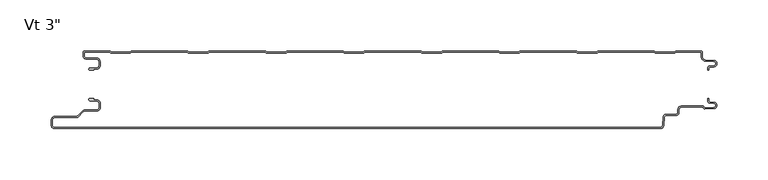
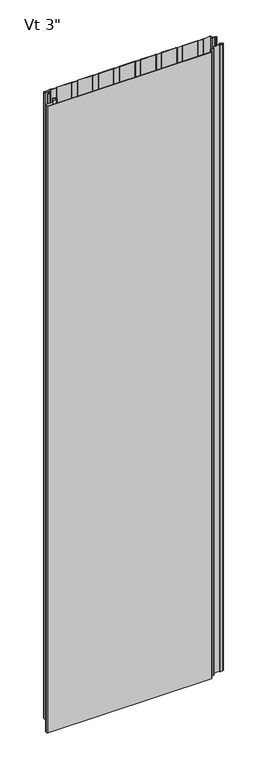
"""IFC4 building model written with IfcOpenShell, lengths in millimetres: plate geometry."""

from ifc_helpers import new_model, si_unit, point, frame, frame_2d, origin, origin_with_axes, place, context, project, spatial, polyline, circle_curve, trimmed, segment, composite_curve, outline, extrude, source, transform, mapped, element, save
from ifc_brep_helpers import plane_surface, cylinder_surface, revolved_surface, advanced_brep


def plate_f468f77b(model_context):
    return source(origin(), model_context, "Body", "SolidModel", [
        advanced_brep(
        [(-302.7686912, -17.0015159, 2400.0), (-303.7686884, -18.0015191, 2400.0), (-302.7686912, -19.0015104, 2400.0), (-298.7684875, -19.0015105, 2400.0), (-298.7684875, -18.0015159, 2400.0), (-296.0762777, -18.0015159, 2400.0), (-292.776282, -14.7015202, 2400.0), (-292.776282, -10.301529, 2400.0), (-296.0762775, -7.0015335, 2400.0), (-306.4962564, -7.0015335, 2400.0), (-308.2662506, -5.2315393, 2400.0), (-308.2662506, -0.9999916, 2400.0), (-283.765974, -0.9999916, 2400.0), (-282.3803314, -2.2002307, 2400.0), (-263.0051651, -2.2002307, 2400.0), (-261.6195321, -1.0, 2400.0), (-207.5661167, -1.0, 2400.0), (-206.1804838, -2.2002307, 2400.0), (-186.8053175, -2.2002307, 2400.0), (-185.4196845, -1.0, 2400.0), (-131.3662691, -1.0, 2400.0), (-129.9806362, -2.2002307, 2400.0), (-110.6054699, -2.2002307, 2400.0), (-109.2198369, -1.0, 2400.0), (-55.1664215, -1.0, 2400.0), (-53.7807886, -2.2002307, 2400.0), (-34.4056223, -2.2002307, 2400.0), (-33.0199893, -1.0, 2400.0), (21.0334261, -1.0, 2400.0), (22.419059, -2.2002307, 2400.0), (41.7942253, -2.2002307, 2400.0), (43.1798583, -1.0, 2400.0), (97.2332737, -1.0, 2400.0), (98.6189066, -2.2002307, 2400.0), (117.9940729, -2.2002307, 2400.0), (119.3797059, -1.0, 2400.0), (173.4331213, -1.0, 2400.0), (174.8187542, -2.2002307, 2400.0), (194.1939205, -2.2002307, 2400.0), (195.5795535, -1.0, 2400.0), (249.6329689, -1.0, 2400.0), (251.0186018, -2.2002307, 2400.0), (270.3937681, -2.2002307, 2400.0), (271.7794011, -1.0, 2400.0), (296.2787013, -1.0, 2400.0), (296.2787013, -6.0026007, 2400.0), (300.1016499, -9.9974365, 2400.0), (308.5931719, -10.4046442, 2400.0), (308.5921924, -14.7059822, 2400.0), (304.4513685, -14.9256429, 2400.0), (302.7686884, -16.6743462, 2400.0), (302.7686884, -19.0015288, 2400.0), (303.7686884, -19.0015288, 2400.0), (303.7686884, -16.6743462, 2400.0), (304.4955779, -15.9247038, 2400.0), (308.6451655, -15.7045782, 2400.0), (308.6435732, -9.405912, 2400.0), (300.1495495, -8.9985844, 2400.0), (297.2787013, -6.0004836, 2400.0), (297.2787013, -1.4015652, 2400.0), (295.878797, -0.001568, 2400.0), (271.9275849, 2.09e-05, 2400.0), (271.0119353, -0.3417885, 2400.0), (270.0208877, -1.2002307, 2400.0), (251.3914823, -1.2002307, 2400.0), (250.4004346, -0.3417885, 2400.0), (249.4838177, 0.0, 2400.0), (195.7287046, 0.0, 2400.0), (194.8120877, -0.3417885, 2400.0), (193.8210401, -1.2002307, 2400.0), (175.1916347, -1.2002307, 2400.0), (174.200587, -0.3417885, 2400.0), (173.2839701, 0.0, 2400.0), (119.528857, 0.0, 2400.0), (118.6122401, -0.3417885, 2400.0), (117.6211925, -1.2002307, 2400.0), (98.9917871, -1.2002307, 2400.0), (98.0007394, -0.3417885, 2400.0), (97.0841225, 0.0, 2400.0), (43.3290094, 0.0, 2400.0), (42.4123925, -0.3417885, 2400.0), (41.4213449, -1.2002307, 2400.0), (22.7919395, -1.2002307, 2400.0), (21.8008918, -0.3417885, 2400.0), (20.8842749, 0.0, 2400.0), (-32.8708382, 0.0, 2400.0), (-33.7874551, -0.3417885, 2400.0), (-34.7785027, -1.2002307, 2400.0), (-53.4079081, -1.2002307, 2400.0), (-54.3989558, -0.3417885, 2400.0), (-55.3155727, 0.0, 2400.0), (-109.0706858, 0.0, 2400.0), (-109.9873027, -0.3417885, 2400.0), (-110.9783503, -1.2002307, 2400.0), (-129.6077557, -1.2002307, 2400.0), (-130.5988034, -0.3417885, 2400.0), (-131.5154203, 0.0, 2400.0), (-185.2705334, 0.0, 2400.0), (-186.1871503, -0.3417885, 2400.0), (-187.1781979, -1.2002307, 2400.0), (-205.8076033, -1.2002307, 2400.0), (-206.798651, -0.3417885, 2400.0), (-207.7152679, 0.0, 2400.0), (-261.470381, 0.0, 2400.0), (-262.3869979, -0.3417885, 2400.0), (-263.3780455, -1.2002307, 2400.0), (-282.0074509, -1.2002307, 2400.0), (-282.9984986, -0.3417885, 2400.0), (-283.9152069, 0.0, 2400.0), (-307.8662545, 8.4e-06, 2400.0), (-309.2662506, -1.3999878, 2400.0), (-309.2662506, -5.2315393, 2400.0), (-306.4962564, -8.0015335, 2400.0), (-296.0762775, -8.0015335, 2400.0), (-293.776282, -10.301529, 2400.0), (-293.776282, -14.7015202, 2400.0), (-296.0762777, -17.0015159, 2400.0), (-302.7686912, -17.0015159, 0.0), (-296.0762777, -17.0015159, 0.0), (-293.776282, -14.7015202, 0.0), (-293.776282, -10.301529, 0.0), (-296.0762775, -8.0015335, 0.0), (-306.4962564, -8.0015335, 0.0), (-309.2662506, -5.2315393, 0.0), (-309.2662506, -1.3999878, 0.0), (-307.8662545, 8.4e-06, 0.0), (-283.9151155, 8.4e-06, 0.0), (-282.9984986, -0.3417885, 0.0), (-282.0074509, -1.2002307, 0.0), (-263.3780455, -1.2002307, 0.0), (-262.3869979, -0.3417885, 0.0), (-261.470381, 0.0, 0.0), (-207.7152679, 0.0, 0.0), (-206.798651, -0.3417885, 0.0), (-205.8076033, -1.2002307, 0.0), (-187.1781979, -1.2002307, 0.0), (-186.1871503, -0.3417885, 0.0), (-185.2705334, 0.0, 0.0), (-131.5154203, 0.0, 0.0), (-130.5988034, -0.3417885, 0.0), (-129.6077557, -1.2002307, 0.0), (-110.9783503, -1.2002307, 0.0), (-109.9873027, -0.3417885, 0.0), (-109.0706858, 0.0, 0.0), (-55.3155727, 0.0, 0.0), (-54.3989558, -0.3417885, 0.0), (-53.4079081, -1.2002307, 0.0), (-34.7785027, -1.2002307, 0.0), (-33.7874551, -0.3417885, 0.0), (-32.8708382, 0.0, 0.0), (20.8842749, 0.0, 0.0), (21.8008918, -0.3417885, 0.0), (22.7919395, -1.2002307, 0.0), (41.4213449, -1.2002307, 0.0), (42.4123925, -0.3417885, 0.0), (43.3290094, 0.0, 0.0), (97.0841225, 0.0, 0.0), (98.0007394, -0.3417885, 0.0), (98.9917871, -1.2002307, 0.0), (117.6211925, -1.2002307, 0.0), (118.6122401, -0.3417885, 0.0), (119.528857, 0.0, 0.0), (173.2839701, 0.0, 0.0), (174.200587, -0.3417885, 0.0), (175.1916347, -1.2002307, 0.0), (193.8210401, -1.2002307, 0.0), (194.8120877, -0.3417885, 0.0), (195.7287046, 0.0, 0.0), (249.4838177, 0.0, 0.0), (250.4004346, -0.3417885, 0.0), (251.3914823, -1.2002307, 0.0), (270.0208877, -1.2002307, 0.0), (271.0119353, -0.3417885, 0.0), (271.9285522, 0.0, 0.0), (295.878797, 2.09e-05, 0.0), (297.2787013, -1.4015652, 0.0), (297.2787013, -6.0004836, 0.0), (300.1495495, -8.9985844, 0.0), (308.6435732, -9.405912, 0.0), (308.6451655, -15.7045782, 0.0), (304.4955779, -15.9247038, 0.0), (303.7686884, -16.6743462, 0.0), (303.7686884, -19.0015288, 0.0), (302.7686884, -19.0015288, 0.0), (302.7686884, -16.6743462, 0.0), (304.4513685, -14.9256429, 0.0), (308.5921924, -14.7059822, 0.0), (308.5931719, -10.4046442, 0.0), (300.1016499, -9.9974365, 0.0), (296.2787013, -6.0026007, 0.0), (296.2787013, -1.0, 0.0), (271.7794011, -1.0, 0.0), (270.3937681, -2.2002307, 0.0), (251.0186018, -2.2002307, 0.0), (249.6329689, -1.0, 0.0), (195.5795535, -1.0, 0.0), (194.1939205, -2.2002307, 0.0), (174.8187542, -2.2002307, 0.0), (173.4331213, -1.0, 0.0), (119.3797059, -1.0, 0.0), (117.9940729, -2.2002307, 0.0), (98.6189066, -2.2002307, 0.0), (97.2332737, -1.0, 0.0), (43.1798583, -1.0, 0.0), (41.7942253, -2.2002307, 0.0), (22.419059, -2.2002307, 0.0), (21.0334261, -1.0, 0.0), (-33.0199893, -1.0, 0.0), (-34.4056223, -2.2002307, 0.0), (-53.7807886, -2.2002307, 0.0), (-55.1664215, -1.0, 0.0), (-109.2198369, -1.0, 0.0), (-110.6054699, -2.2002307, 0.0), (-129.9806362, -2.2002307, 0.0), (-131.3662691, -1.0, 0.0), (-185.4196845, -1.0, 0.0), (-186.8053175, -2.2002307, 0.0), (-206.1804838, -2.2002307, 0.0), (-207.5661167, -1.0, 0.0), (-261.6195321, -1.0, 0.0), (-263.0051651, -2.2002307, 0.0), (-282.3803314, -2.2002307, 0.0), (-283.765974, -0.9999916, 0.0), (-308.2662506, -0.9999916, 0.0), (-308.2662506, -5.2315393, 0.0), (-306.4962564, -7.0015335, 0.0), (-296.0762775, -7.0015335, 0.0), (-292.776282, -10.301529, 0.0), (-292.776282, -14.7015202, 0.0), (-296.0762777, -18.0015159, 0.0), (-298.7684875, -18.0015159, 0.0), (-298.7684875, -19.0015105, 0.0), (-302.7686912, -19.0015105, 0.0), (-303.7686884, -18.0015191, 0.0)],
        [
            (0, 1, circle_curve(frame((-302.7686912, -18.0015132, 2400.0), z_axis=(0.0, 0.0, 1.0), x_axis=(1.0, 0.0, 0.0)), 0.9999973)),
            (1, 2, circle_curve(frame((-302.7686912, -18.0015132, 2400.0), z_axis=(0.0, 0.0, 1.0), x_axis=(1.0, 0.0, 0.0)), 0.9999972)),
            (2, 3),
            (3, 4),
            (4, 5),
            (5, 6, circle_curve(frame((-296.0762777, -14.7015202, 2400.0), z_axis=(0.0, 0.0, 1.0), x_axis=(1.0, 0.0, 0.0)), 3.2999957)),
            (6, 7),
            (7, 8, circle_curve(frame((-296.0762775, -10.301529, 2400.0), z_axis=(0.0, 0.0, 1.0), x_axis=(1.0, 0.0, 0.0)), 3.2999955)),
            (8, 9),
            (9, 10, circle_curve(frame((-306.4962564, -5.2315393, 2400.0), z_axis=(0.0, 0.0, -1.0), x_axis=(1.0, 0.0, 0.0)), 1.7699942)),
            (10, 11),
            (11, 12),
            (12, 13),
            (13, 14),
            (14, 15),
            (15, 16),
            (16, 17),
            (17, 18),
            (18, 19),
            (19, 20),
            (20, 21),
            (21, 22),
            (22, 23),
            (23, 24),
            (24, 25),
            (25, 26),
            (26, 27),
            (27, 28),
            (28, 29),
            (29, 30),
            (30, 31),
            (31, 32),
            (32, 33),
            (33, 34),
            (34, 35),
            (35, 36),
            (36, 37),
            (37, 38),
            (38, 39),
            (39, 40),
            (40, 41),
            (41, 42),
            (42, 43),
            (43, 44),
            (44, 45),
            (45, 46, circle_curve(frame((300.2939817, -5.9867338, 2400.0), z_axis=(0.0, 0.0, 1.0), x_axis=(1.0, 0.0, 0.0)), 4.0153117)),
            (46, 47),
            (47, 48, circle_curve(frame((308.4781032, -12.5552871, 2400.0), z_axis=(0.0, 0.0, -1.0), x_axis=(1.0, 0.0, 0.0)), 2.153719)),
            (48, 49),
            (49, 50, circle_curve(frame((304.5186869, -16.6743462, 2400.0), z_axis=(0.0, 0.0, 1.0), x_axis=(1.0, 0.0, 0.0)), 1.7499985)),
            (50, 51),
            (51, 52),
            (52, 53),
            (53, 54, circle_curve(frame((304.5186869, -16.6743462, 2400.0), z_axis=(0.0, 0.0, -1.0), x_axis=(1.0, 0.0, 0.0)), 0.7499985)),
            (54, 55),
            (55, 56, circle_curve(frame((308.4781032, -12.5552871, 2400.0), z_axis=(0.0, 0.0, 1.0), x_axis=(1.0, 0.0, 0.0)), 3.153719)),
            (56, 57),
            (57, 58, circle_curve(frame((300.2939817, -5.9867338, 2400.0), z_axis=(0.0, 0.0, -1.0), x_axis=(1.0, 0.0, 0.0)), 3.0153117)),
            (58, 59),
            (59, 60, circle_curve(frame((295.8787041, -1.4015652, 2400.0), z_axis=(0.0, 0.0, 1.0), x_axis=(1.0, 0.0, 0.0)), 1.3999972)),
            (60, 61),
            (61, 62, circle_curve(frame((271.9285522, -1.3999972, 2400.0), z_axis=(0.0, 0.0, 1.0), x_axis=(1.0, 0.0, 0.0)), 1.3999972)),
            (62, 63),
            (63, 64),
            (64, 65),
            (65, 66, circle_curve(frame((249.4838177, -1.3999972, 2400.0), z_axis=(0.0, 0.0, 1.0), x_axis=(1.0, 0.0, 0.0)), 1.3999972)),
            (66, 67),
            (67, 68, circle_curve(frame((195.7287046, -1.3999972, 2400.0), z_axis=(0.0, 0.0, 1.0), x_axis=(1.0, 0.0, 0.0)), 1.3999972)),
            (68, 69),
            (69, 70),
            (70, 71),
            (71, 72, circle_curve(frame((173.2839701, -1.3999972, 2400.0), z_axis=(0.0, 0.0, 1.0), x_axis=(1.0, 0.0, 0.0)), 1.3999972)),
            (72, 73),
            (73, 74, circle_curve(frame((119.528857, -1.3999972, 2400.0), z_axis=(0.0, 0.0, 1.0), x_axis=(1.0, 0.0, 0.0)), 1.3999972)),
            (74, 75),
            (75, 76),
            (76, 77),
            (77, 78, circle_curve(frame((97.0841225, -1.3999972, 2400.0), z_axis=(0.0, 0.0, 1.0), x_axis=(1.0, 0.0, 0.0)), 1.3999972)),
            (78, 79),
            (79, 80, circle_curve(frame((43.3290094, -1.3999972, 2400.0), z_axis=(0.0, 0.0, 1.0), x_axis=(1.0, 0.0, 0.0)), 1.3999972)),
            (80, 81),
            (81, 82),
            (82, 83),
            (83, 84, circle_curve(frame((20.8842749, -1.3999972, 2400.0), z_axis=(0.0, 0.0, 1.0), x_axis=(1.0, 0.0, 0.0)), 1.3999972)),
            (84, 85),
            (85, 86, circle_curve(frame((-32.8708382, -1.3999972, 2400.0), z_axis=(0.0, 0.0, 1.0), x_axis=(1.0, 0.0, 0.0)), 1.3999972)),
            (86, 87),
            (87, 88),
            (88, 89),
            (89, 90, circle_curve(frame((-55.3155727, -1.3999972, 2400.0), z_axis=(0.0, 0.0, 1.0), x_axis=(1.0, 0.0, 0.0)), 1.3999972)),
            (90, 91),
            (91, 92, circle_curve(frame((-109.0706858, -1.3999972, 2400.0), z_axis=(0.0, 0.0, 1.0), x_axis=(1.0, 0.0, 0.0)), 1.3999972)),
            (92, 93),
            (93, 94),
            (94, 95),
            (95, 96, circle_curve(frame((-131.5154203, -1.3999972, 2400.0), z_axis=(0.0, 0.0, 1.0), x_axis=(1.0, 0.0, 0.0)), 1.3999972)),
            (96, 97),
            (97, 98, circle_curve(frame((-185.2705334, -1.3999972, 2400.0), z_axis=(0.0, 0.0, 1.0), x_axis=(1.0, 0.0, 0.0)), 1.3999972)),
            (98, 99),
            (99, 100),
            (100, 101),
            (101, 102, circle_curve(frame((-207.7152679, -1.3999972, 2400.0), z_axis=(0.0, 0.0, 1.0), x_axis=(1.0, 0.0, 0.0)), 1.3999972)),
            (102, 103),
            (103, 104, circle_curve(frame((-261.470381, -1.3999972, 2400.0), z_axis=(0.0, 0.0, 1.0), x_axis=(1.0, 0.0, 0.0)), 1.3999972)),
            (104, 105),
            (105, 106),
            (106, 107),
            (107, 108, circle_curve(frame((-283.9151155, -1.3999972, 2400.0), z_axis=(0.0, 0.0, 1.0), x_axis=(1.0, 0.0, 0.0)), 1.3999972)),
            (108, 109),
            (109, 110, circle_curve(frame((-307.8662545, -1.3999878, 2400.0), z_axis=(0.0, 0.0, 1.0), x_axis=(1.0, 0.0, 0.0)), 1.3999962)),
            (110, 111),
            (111, 112, circle_curve(frame((-306.4962564, -5.2315393, 2400.0), z_axis=(0.0, 0.0, 1.0), x_axis=(1.0, 0.0, 0.0)), 2.7699942)),
            (112, 113),
            (113, 114, circle_curve(frame((-296.0762775, -10.301529, 2400.0), z_axis=(0.0, 0.0, -1.0), x_axis=(1.0, 0.0, 0.0)), 2.2999955)),
            (114, 115),
            (115, 116, circle_curve(frame((-296.0762777, -14.7015202, 2400.0), z_axis=(0.0, 0.0, -1.0), x_axis=(1.0, 0.0, 0.0)), 2.2999957)),
            (116, 0),
            (117, 118),
            (118, 119, circle_curve(frame((-296.0762777, -14.7015202, 0.0), z_axis=(0.0, 0.0, 1.0), x_axis=(1.0, 0.0, 0.0)), 2.2999957)),
            (119, 120),
            (120, 121, circle_curve(frame((-296.0762775, -10.301529, 0.0), z_axis=(0.0, 0.0, 1.0), x_axis=(1.0, 0.0, 0.0)), 2.2999955)),
            (121, 122),
            (122, 123, circle_curve(frame((-306.4962564, -5.2315393, 0.0), z_axis=(0.0, 0.0, -1.0), x_axis=(1.0, 0.0, 0.0)), 2.7699942)),
            (123, 124),
            (124, 125, circle_curve(frame((-307.8662545, -1.3999878, 0.0), z_axis=(0.0, 0.0, -1.0), x_axis=(1.0, 0.0, 0.0)), 1.3999962)),
            (125, 126),
            (126, 127, circle_curve(frame((-283.9151155, -1.3999972, 0.0), z_axis=(0.0, 0.0, -1.0), x_axis=(1.0, 0.0, 0.0)), 1.3999972)),
            (127, 128),
            (128, 129),
            (129, 130),
            (130, 131, circle_curve(frame((-261.470381, -1.3999972, 0.0), z_axis=(0.0, 0.0, -1.0), x_axis=(1.0, 0.0, 0.0)), 1.3999972)),
            (131, 132),
            (132, 133, circle_curve(frame((-207.7152679, -1.3999972, 0.0), z_axis=(0.0, 0.0, -1.0), x_axis=(1.0, 0.0, 0.0)), 1.3999972)),
            (133, 134),
            (134, 135),
            (135, 136),
            (136, 137, circle_curve(frame((-185.2705334, -1.3999972, 0.0), z_axis=(0.0, 0.0, -1.0), x_axis=(1.0, 0.0, 0.0)), 1.3999972)),
            (137, 138),
            (138, 139, circle_curve(frame((-131.5154203, -1.3999972, 0.0), z_axis=(0.0, 0.0, -1.0), x_axis=(1.0, 0.0, 0.0)), 1.3999972)),
            (139, 140),
            (140, 141),
            (141, 142),
            (142, 143, circle_curve(frame((-109.0706858, -1.3999972, 0.0), z_axis=(0.0, 0.0, -1.0), x_axis=(1.0, 0.0, 0.0)), 1.3999972)),
            (143, 144),
            (144, 145, circle_curve(frame((-55.3155727, -1.3999972, 0.0), z_axis=(0.0, 0.0, -1.0), x_axis=(1.0, 0.0, 0.0)), 1.3999972)),
            (145, 146),
            (146, 147),
            (147, 148),
            (148, 149, circle_curve(frame((-32.8708382, -1.3999972, 0.0), z_axis=(0.0, 0.0, -1.0), x_axis=(1.0, 0.0, 0.0)), 1.3999972)),
            (149, 150),
            (150, 151, circle_curve(frame((20.8842749, -1.3999972, 0.0), z_axis=(0.0, 0.0, -1.0), x_axis=(1.0, 0.0, 0.0)), 1.3999972)),
            (151, 152),
            (152, 153),
            (153, 154),
            (154, 155, circle_curve(frame((43.3290094, -1.3999972, 0.0), z_axis=(0.0, 0.0, -1.0), x_axis=(1.0, 0.0, 0.0)), 1.3999972)),
            (155, 156),
            (156, 157, circle_curve(frame((97.0841225, -1.3999972, 0.0), z_axis=(0.0, 0.0, -1.0), x_axis=(1.0, 0.0, 0.0)), 1.3999972)),
            (157, 158),
            (158, 159),
            (159, 160),
            (160, 161, circle_curve(frame((119.528857, -1.3999972, 0.0), z_axis=(0.0, 0.0, -1.0), x_axis=(1.0, 0.0, 0.0)), 1.3999972)),
            (161, 162),
            (162, 163, circle_curve(frame((173.2839701, -1.3999972, 0.0), z_axis=(0.0, 0.0, -1.0), x_axis=(1.0, 0.0, 0.0)), 1.3999972)),
            (163, 164),
            (164, 165),
            (165, 166),
            (166, 167, circle_curve(frame((195.7287046, -1.3999972, 0.0), z_axis=(0.0, 0.0, -1.0), x_axis=(1.0, 0.0, 0.0)), 1.3999972)),
            (167, 168),
            (168, 169, circle_curve(frame((249.4838177, -1.3999972, 0.0), z_axis=(0.0, 0.0, -1.0), x_axis=(1.0, 0.0, 0.0)), 1.3999972)),
            (169, 170),
            (170, 171),
            (171, 172),
            (172, 173, circle_curve(frame((271.9285522, -1.3999972, 0.0), z_axis=(0.0, 0.0, -1.0), x_axis=(1.0, 0.0, 0.0)), 1.3999972)),
            (173, 174),
            (174, 175, circle_curve(frame((295.8787041, -1.4015652, 0.0), z_axis=(0.0, 0.0, -1.0), x_axis=(1.0, 0.0, 0.0)), 1.3999972)),
            (175, 176),
            (176, 177, circle_curve(frame((300.2939817, -5.9867338, 0.0), z_axis=(0.0, 0.0, 1.0), x_axis=(1.0, 0.0, 0.0)), 3.0153117)),
            (177, 178),
            (178, 179, circle_curve(frame((308.4781032, -12.5552871, 0.0), z_axis=(0.0, 0.0, -1.0), x_axis=(1.0, 0.0, 0.0)), 3.153719)),
            (179, 180),
            (180, 181, circle_curve(frame((304.5186869, -16.6743462, 0.0), z_axis=(0.0, 0.0, 1.0), x_axis=(1.0, 0.0, 0.0)), 0.7499985)),
            (181, 182),
            (182, 183),
            (183, 184),
            (184, 185, circle_curve(frame((304.5186869, -16.6743462, 0.0), z_axis=(0.0, 0.0, -1.0), x_axis=(1.0, 0.0, 0.0)), 1.7499985)),
            (185, 186),
            (186, 187, circle_curve(frame((308.4781032, -12.5552871, 0.0), z_axis=(0.0, 0.0, 1.0), x_axis=(1.0, 0.0, 0.0)), 2.153719)),
            (187, 188),
            (188, 189, circle_curve(frame((300.2939817, -5.9867338, 0.0), z_axis=(0.0, 0.0, -1.0), x_axis=(1.0, 0.0, 0.0)), 4.0153117)),
            (189, 190),
            (190, 191),
            (191, 192),
            (192, 193),
            (193, 194),
            (194, 195),
            (195, 196),
            (196, 197),
            (197, 198),
            (198, 199),
            (199, 200),
            (200, 201),
            (201, 202),
            (202, 203),
            (203, 204),
            (204, 205),
            (205, 206),
            (206, 207),
            (207, 208),
            (208, 209),
            (209, 210),
            (210, 211),
            (211, 212),
            (212, 213),
            (213, 214),
            (214, 215),
            (215, 216),
            (216, 217),
            (217, 218),
            (218, 219),
            (219, 220),
            (220, 221),
            (221, 222),
            (222, 223),
            (223, 224),
            (224, 225, circle_curve(frame((-306.4962564, -5.2315393, 0.0), z_axis=(0.0, 0.0, 1.0), x_axis=(1.0, 0.0, 0.0)), 1.7699942)),
            (225, 226),
            (226, 227, circle_curve(frame((-296.0762775, -10.301529, 0.0), z_axis=(0.0, 0.0, -1.0), x_axis=(1.0, 0.0, 0.0)), 3.2999955)),
            (227, 228),
            (228, 229, circle_curve(frame((-296.0762777, -14.7015202, 0.0), z_axis=(0.0, 0.0, -1.0), x_axis=(1.0, 0.0, 0.0)), 3.2999957)),
            (229, 230),
            (230, 231),
            (231, 232),
            (232, 233, circle_curve(frame((-302.7686912, -18.0015132, 0.0), z_axis=(0.0, 0.0, -1.0), x_axis=(1.0, 0.0, 0.0)), 0.9999972)),
            (233, 117, circle_curve(frame((-302.7686912, -18.0015132, 0.0), z_axis=(0.0, 0.0, -1.0), x_axis=(1.0, 0.0, 0.0)), 0.9999973)),
            (116, 118),
            (117, 0),
            (115, 119),
            (114, 120),
            (113, 121),
            (112, 122),
            (111, 123),
            (110, 124),
            (109, 125),
            (108, 126),
            (90, 144),
            (143, 91),
            (107, 127),
            (106, 128),
            (105, 129),
            (103, 131),
            (130, 104),
            (101, 133),
            (132, 102),
            (86, 148),
            (147, 87),
            (142, 92),
            (141, 93),
            (96, 138),
            (137, 97),
            (89, 145),
            (88, 146),
            (85, 149),
            (136, 98),
            (99, 135),
            (134, 100),
            (95, 139),
            (94, 140),
            (2, 232),
            (231, 3),
            (1, 233),
            (84, 150),
            (83, 151),
            (82, 152),
            (81, 153),
            (80, 154),
            (79, 155),
            (78, 156),
            (77, 157),
            (76, 158),
            (75, 159),
            (74, 160),
            (73, 161),
            (72, 162),
            (71, 163),
            (70, 164),
            (69, 165),
            (68, 166),
            (67, 167),
            (66, 168),
            (65, 169),
            (64, 170),
            (63, 171),
            (62, 172),
            (61, 173),
            (60, 174),
            (59, 175),
            (58, 176),
            (57, 177),
            (56, 178),
            (55, 179),
            (54, 180),
            (53, 181),
            (52, 182),
            (51, 183),
            (50, 184),
            (49, 185),
            (48, 186),
            (47, 187),
            (46, 188),
            (45, 189),
            (44, 190),
            (43, 191),
            (42, 192),
            (41, 193),
            (40, 194),
            (39, 195),
            (38, 196),
            (37, 197),
            (36, 198),
            (35, 199),
            (34, 200),
            (33, 201),
            (32, 202),
            (31, 203),
            (30, 204),
            (29, 205),
            (28, 206),
            (27, 207),
            (26, 208),
            (25, 209),
            (24, 210),
            (23, 211),
            (22, 212),
            (21, 213),
            (20, 214),
            (19, 215),
            (18, 216),
            (17, 217),
            (16, 218),
            (15, 219),
            (14, 220),
            (13, 221),
            (12, 222),
            (11, 223),
            (10, 224),
            (9, 225),
            (8, 226),
            (7, 227),
            (6, 228),
            (5, 229),
            (4, 230),
        ],
        [
            plane_surface(frame((0.0, 0.0, 2400.0), z_axis=(0.0, 0.0, 1.0), x_axis=(0.0, 1.0, 0.0))),
            plane_surface(frame((0.0, 0.0, 0.0), z_axis=(0.0, 0.0, -1.0), x_axis=(0.0, 1.0, 0.0))),
            plane_surface(frame((-302.7686912, -17.0015159, 2400.0), z_axis=(0.0, 1.0, 0.0), x_axis=(0.0, 0.0, -1.0))),
            revolved_surface(polyline([(-293.776282, -14.7015202, 0.0), (-293.776282, -14.7015202, 2400.0)]), (-296.0762777, -14.7015202, 2400.0), (0.0, 0.0, -1.0)),
            plane_surface(frame((-293.776282, -14.7015202, 2400.0), z_axis=(-1.0, 0.0, 0.0), x_axis=(0.0, 0.0, -1.0))),
            revolved_surface(polyline([(-293.776282, -10.301529, 0.0), (-293.776282, -10.301529, 2400.0)]), (-296.0762775, -10.301529, 2400.0), (0.0, 0.0, -1.0)),
            plane_surface(frame((-296.0762775, -8.0015335, 2400.0), z_axis=(0.0, -1.0, 0.0), x_axis=(0.0, 0.0, -1.0))),
            cylinder_surface(frame((-306.4962564, -5.2315393, 2400.0), z_axis=(0.0, 0.0, 1.0), x_axis=(1.0, 0.0, 0.0)), 2.7699942),
            plane_surface(frame((-309.2662506, -5.2315393, 2400.0), z_axis=(-1.0, 0.0, 0.0), x_axis=(0.0, 0.0, -1.0))),
            cylinder_surface(frame((-307.8662545, -1.3999878, 2400.0), z_axis=(0.0, 0.0, 1.0), x_axis=(1.0, 0.0, 0.0)), 1.3999962),
            plane_surface(frame((-307.8662545, 8.4e-06, 2400.0), z_axis=(0.0, 1.0, 0.0), x_axis=(0.0, 0.0, -1.0))),
            plane_surface(frame((-109.0706858, 0.0, 2400.0), z_axis=(0.0, 1.0, 0.0), x_axis=(0.0, 0.0, -1.0))),
            cylinder_surface(frame((-283.9151155, -1.3999972, 2400.0), z_axis=(0.0, 0.0, 1.0), x_axis=(1.0, 0.0, 0.0)), 1.3999972),
            plane_surface(frame((-282.9984986, -0.3417885, 2400.0), z_axis=(0.6547276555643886, 0.755864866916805, 0.0), x_axis=(0.0, 0.0, -1.0))),
            plane_surface(frame((-272.6927482, -1.2002307, 2400.0), z_axis=(0.0, 1.0, 0.0), x_axis=(0.0, 0.0, -1.0))),
            cylinder_surface(frame((-261.470381, -1.3999972, 2400.0), z_axis=(0.0, 0.0, 1.0), x_axis=(1.0, 0.0, 0.0)), 1.3999972),
            plane_surface(frame((-263.3780455, -1.2002307, 2400.0), z_axis=(-0.6547276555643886, 0.755864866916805, 0.0), x_axis=(0.0, 0.0, -1.0))),
            cylinder_surface(frame((-207.7152679, -1.3999972, 2400.0), z_axis=(0.0, 0.0, 1.0), x_axis=(1.0, 0.0, 0.0)), 1.3999972),
            plane_surface(frame((-34.7785027, -1.2002307, 2400.0), z_axis=(-0.6547276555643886, 0.755864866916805, 0.0), x_axis=(0.0, 0.0, -1.0))),
            cylinder_surface(frame((-109.0706858, -1.3999972, 2400.0), z_axis=(0.0, 0.0, 1.0), x_axis=(1.0, 0.0, 0.0)), 1.3999972),
            plane_surface(frame((-110.9783503, -1.2002307, 2400.0), z_axis=(-0.6547276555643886, 0.755864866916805, 0.0), x_axis=(0.0, 0.0, -1.0))),
            plane_surface(frame((-185.2705334, 0.0, 2400.0), z_axis=(0.0, 1.0, 0.0), x_axis=(0.0, 0.0, -1.0))),
            cylinder_surface(frame((-55.3155727, -1.3999972, 2400.0), z_axis=(0.0, 0.0, 1.0), x_axis=(1.0, 0.0, 0.0)), 1.3999972),
            plane_surface(frame((-54.3989558, -0.3417885, 2400.0), z_axis=(0.6547276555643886, 0.755864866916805, 0.0), x_axis=(0.0, 0.0, -1.0))),
            plane_surface(frame((-44.0932054, -1.2002307, 2400.0), z_axis=(0.0, 1.0, 0.0), x_axis=(0.0, 0.0, -1.0))),
            cylinder_surface(frame((-32.8708382, -1.3999972, 2400.0), z_axis=(0.0, 0.0, 1.0), x_axis=(1.0, 0.0, 0.0)), 1.3999972),
            cylinder_surface(frame((-185.2705334, -1.3999972, 2400.0), z_axis=(0.0, 0.0, 1.0), x_axis=(1.0, 0.0, 0.0)), 1.3999972),
            plane_surface(frame((-196.4929006, -1.2002307, 2400.0), z_axis=(0.0, 1.0, 0.0), x_axis=(0.0, 0.0, -1.0))),
            plane_surface(frame((-206.798651, -0.3417885, 2400.0), z_axis=(0.6547276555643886, 0.755864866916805, 0.0), x_axis=(0.0, 0.0, -1.0))),
            plane_surface(frame((-187.1781979, -1.2002307, 2400.0), z_axis=(-0.6547276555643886, 0.755864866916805, 0.0), x_axis=(0.0, 0.0, -1.0))),
            plane_surface(frame((-261.470381, 0.0, 2400.0), z_axis=(0.0, 1.0, 0.0), x_axis=(0.0, 0.0, -1.0))),
            cylinder_surface(frame((-131.5154203, -1.3999972, 2400.0), z_axis=(0.0, 0.0, 1.0), x_axis=(1.0, 0.0, 0.0)), 1.3999972),
            plane_surface(frame((-130.5988034, -0.3417885, 2400.0), z_axis=(0.6547276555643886, 0.755864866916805, 0.0), x_axis=(0.0, 0.0, -1.0))),
            plane_surface(frame((-120.293053, -1.2002307, 2400.0), z_axis=(0.0, 1.0, 0.0), x_axis=(0.0, 0.0, -1.0))),
            plane_surface(frame((-298.7684875, -19.0015105, 2400.0), z_axis=(0.0, -1.0, 0.0), x_axis=(0.0, 0.0, -1.0))),
            cylinder_surface(frame((-302.7686912, -18.0015132, 2400.0), z_axis=(0.0, 0.0, 1.0), x_axis=(1.0, 0.0, 0.0)), 0.9999972),
            cylinder_surface(frame((-302.7686912, -18.0015132, 2400.0), z_axis=(0.0, 0.0, 1.0), x_axis=(1.0, 0.0, 0.0)), 0.9999973),
            plane_surface(frame((-32.8708382, 0.0, 2400.0), z_axis=(0.0, 1.0, 0.0), x_axis=(0.0, 0.0, -1.0))),
            cylinder_surface(frame((20.8842749, -1.3999972, 2400.0), z_axis=(0.0, 0.0, 1.0), x_axis=(1.0, 0.0, 0.0)), 1.3999972),
            plane_surface(frame((21.8008918, -0.3417885, 2400.0), z_axis=(0.6547276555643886, 0.755864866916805, 0.0), x_axis=(0.0, 0.0, -1.0))),
            plane_surface(frame((32.1066422, -1.2002307, 2400.0), z_axis=(0.0, 1.0, 0.0), x_axis=(0.0, 0.0, -1.0))),
            plane_surface(frame((41.4213449, -1.2002307, 2400.0), z_axis=(-0.6547276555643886, 0.755864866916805, 0.0), x_axis=(0.0, 0.0, -1.0))),
            cylinder_surface(frame((43.3290094, -1.3999972, 2400.0), z_axis=(0.0, 0.0, 1.0), x_axis=(1.0, 0.0, 0.0)), 1.3999972),
            plane_surface(frame((43.3290094, 0.0, 2400.0), z_axis=(0.0, 1.0, 0.0), x_axis=(0.0, 0.0, -1.0))),
            cylinder_surface(frame((97.0841225, -1.3999972, 2400.0), z_axis=(0.0, 0.0, 1.0), x_axis=(1.0, 0.0, 0.0)), 1.3999972),
            plane_surface(frame((98.0007394, -0.3417885, 2400.0), z_axis=(0.6547276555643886, 0.755864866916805, 0.0), x_axis=(0.0, 0.0, -1.0))),
            plane_surface(frame((108.3064898, -1.2002307, 2400.0), z_axis=(0.0, 1.0, 0.0), x_axis=(0.0, 0.0, -1.0))),
            plane_surface(frame((117.6211925, -1.2002307, 2400.0), z_axis=(-0.6547276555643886, 0.755864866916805, 0.0), x_axis=(0.0, 0.0, -1.0))),
            cylinder_surface(frame((119.528857, -1.3999972, 2400.0), z_axis=(0.0, 0.0, 1.0), x_axis=(1.0, 0.0, 0.0)), 1.3999972),
            plane_surface(frame((119.528857, 0.0, 2400.0), z_axis=(0.0, 1.0, 0.0), x_axis=(0.0, 0.0, -1.0))),
            cylinder_surface(frame((173.2839701, -1.3999972, 2400.0), z_axis=(0.0, 0.0, 1.0), x_axis=(1.0, 0.0, 0.0)), 1.3999972),
            plane_surface(frame((174.200587, -0.3417885, 2400.0), z_axis=(0.6547276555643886, 0.755864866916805, 0.0), x_axis=(0.0, 0.0, -1.0))),
            plane_surface(frame((184.5063374, -1.2002307, 2400.0), z_axis=(0.0, 1.0, 0.0), x_axis=(0.0, 0.0, -1.0))),
            plane_surface(frame((193.8210401, -1.2002307, 2400.0), z_axis=(-0.6547276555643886, 0.755864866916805, 0.0), x_axis=(0.0, 0.0, -1.0))),
            cylinder_surface(frame((195.7287046, -1.3999972, 2400.0), z_axis=(0.0, 0.0, 1.0), x_axis=(1.0, 0.0, 0.0)), 1.3999972),
            plane_surface(frame((195.7287046, 0.0, 2400.0), z_axis=(0.0, 1.0, 0.0), x_axis=(0.0, 0.0, -1.0))),
            cylinder_surface(frame((249.4838177, -1.3999972, 2400.0), z_axis=(0.0, 0.0, 1.0), x_axis=(1.0, 0.0, 0.0)), 1.3999972),
            plane_surface(frame((250.4004346, -0.3417885, 2400.0), z_axis=(0.6547276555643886, 0.755864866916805, 0.0), x_axis=(0.0, 0.0, -1.0))),
            plane_surface(frame((260.706185, -1.2002307, 2400.0), z_axis=(0.0, 1.0, 0.0), x_axis=(0.0, 0.0, -1.0))),
            plane_surface(frame((270.0208877, -1.2002307, 2400.0), z_axis=(-0.6547276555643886, 0.755864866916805, 0.0), x_axis=(0.0, 0.0, -1.0))),
            cylinder_surface(frame((271.9285522, -1.3999972, 2400.0), z_axis=(0.0, 0.0, 1.0), x_axis=(1.0, 0.0, 0.0)), 1.3999972),
            plane_surface(frame((271.9275849, 2.09e-05, 2400.0), z_axis=(0.0, 1.0, 0.0), x_axis=(0.0, 0.0, -1.0))),
            cylinder_surface(frame((295.8787041, -1.4015652, 2400.0), z_axis=(0.0, 0.0, 1.0), x_axis=(1.0, 0.0, 0.0)), 1.3999972),
            plane_surface(frame((297.2787013, -1.4015652, 2400.0), z_axis=(1.0, 0.0, 0.0), x_axis=(0.0, 0.0, -1.0))),
            revolved_surface(polyline([(303.3092934, -5.9867338, 0.0), (303.3092934, -5.9867338, 2400.0)]), (300.2939817, -5.9867338, 2400.0), (0.0, 0.0, -1.0)),
            plane_surface(frame((300.1495495, -8.9985844, 2400.0), z_axis=(0.047899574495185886, 0.9988521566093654, 0.0), x_axis=(0.0, 0.0, -1.0))),
            cylinder_surface(frame((308.4781032, -12.5552871, 2400.0), z_axis=(0.0, 0.0, 1.0), x_axis=(1.0, 0.0, 0.0)), 3.153719),
            plane_surface(frame((308.6451655, -15.7045782, 2400.0), z_axis=(0.05297310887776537, -0.9985959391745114, 0.0), x_axis=(0.0, 0.0, -1.0))),
            revolved_surface(polyline([(305.2686854, -16.6743462, 0.0), (305.2686854, -16.6743462, 2400.0)]), (304.5186869, -16.6743462, 2400.0), (0.0, 0.0, -1.0)),
            plane_surface(frame((303.7686884, -17.5871409, 2400.0), z_axis=(1.0, 0.0, 0.0), x_axis=(0.0, 0.0, -1.0))),
            plane_surface(frame((303.7686884, -19.0015288, 2400.0), z_axis=(0.0, -1.0, 0.0), x_axis=(0.0, 0.0, -1.0))),
            plane_surface(frame((302.7686884, -17.5871409, 2400.0), z_axis=(-1.0, 0.0, 0.0), x_axis=(0.0, 0.0, -1.0))),
            cylinder_surface(frame((304.5186869, -16.6743462, 2400.0), z_axis=(0.0, 0.0, 1.0), x_axis=(1.0, 0.0, 0.0)), 1.7499985),
            plane_surface(frame((304.4513685, -14.9256429, 2400.0), z_axis=(-0.05297310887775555, 0.998595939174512, 0.0), x_axis=(0.0, 0.0, -1.0))),
            revolved_surface(polyline([(310.63182220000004, -12.5552871, 0.0), (310.63182220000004, -12.5552871, 2400.0)]), (308.4781032, -12.5552871, 2400.0), (0.0, 0.0, -1.0)),
            plane_surface(frame((308.5931719, -10.4046442, 2400.0), z_axis=(-0.04789957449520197, -0.9988521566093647, 0.0), x_axis=(0.0, 0.0, -1.0))),
            cylinder_surface(frame((300.2939817, -5.9867338, 2400.0), z_axis=(0.0, 0.0, 1.0), x_axis=(1.0, 0.0, 0.0)), 4.0153117),
            plane_surface(frame((296.2787013, -6.0026007, 2400.0), z_axis=(-1.0, 0.0, 0.0), x_axis=(0.0, 0.0, -1.0))),
            plane_surface(frame((296.2787013, -1.0, 2400.0), z_axis=(0.0, -1.0, 0.0), x_axis=(0.0, 0.0, -1.0))),
            plane_surface(frame((271.7794011, -1.0, 2400.0), z_axis=(0.6547276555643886, -0.755864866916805, 0.0), x_axis=(0.0, 0.0, -1.0))),
            plane_surface(frame((270.3937681, -2.2002307, 2400.0), z_axis=(0.0, -1.0, 0.0), x_axis=(0.0, 0.0, -1.0))),
            plane_surface(frame((251.0186018, -2.2002307, 2400.0), z_axis=(-0.6547276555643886, -0.755864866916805, 0.0), x_axis=(0.0, 0.0, -1.0))),
            plane_surface(frame((249.6329689, -1.0, 2400.0), z_axis=(0.0, -1.0, 0.0), x_axis=(0.0, 0.0, -1.0))),
            plane_surface(frame((195.5795535, -1.0, 2400.0), z_axis=(0.6547276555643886, -0.755864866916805, 0.0), x_axis=(0.0, 0.0, -1.0))),
            plane_surface(frame((194.1939205, -2.2002307, 2400.0), z_axis=(0.0, -1.0, 0.0), x_axis=(0.0, 0.0, -1.0))),
            plane_surface(frame((174.8187542, -2.2002307, 2400.0), z_axis=(-0.6547276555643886, -0.755864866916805, 0.0), x_axis=(0.0, 0.0, -1.0))),
            plane_surface(frame((173.4331213, -1.0, 2400.0), z_axis=(0.0, -1.0, 0.0), x_axis=(0.0, 0.0, -1.0))),
            plane_surface(frame((119.3797059, -1.0, 2400.0), z_axis=(0.6547276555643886, -0.755864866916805, 0.0), x_axis=(0.0, 0.0, -1.0))),
            plane_surface(frame((117.9940729, -2.2002307, 2400.0), z_axis=(0.0, -1.0, 0.0), x_axis=(0.0, 0.0, -1.0))),
            plane_surface(frame((98.6189066, -2.2002307, 2400.0), z_axis=(-0.6547276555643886, -0.755864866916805, 0.0), x_axis=(0.0, 0.0, -1.0))),
            plane_surface(frame((97.2332737, -1.0, 2400.0), z_axis=(0.0, -1.0, 0.0), x_axis=(0.0, 0.0, -1.0))),
            plane_surface(frame((43.1798583, -1.0, 2400.0), z_axis=(0.6547276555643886, -0.755864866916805, 0.0), x_axis=(0.0, 0.0, -1.0))),
            plane_surface(frame((41.7942253, -2.2002307, 2400.0), z_axis=(0.0, -1.0, 0.0), x_axis=(0.0, 0.0, -1.0))),
            plane_surface(frame((22.419059, -2.2002307, 2400.0), z_axis=(-0.6547276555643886, -0.755864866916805, 0.0), x_axis=(0.0, 0.0, -1.0))),
            plane_surface(frame((21.0334261, -1.0, 2400.0), z_axis=(0.0, -1.0, 0.0), x_axis=(0.0, 0.0, -1.0))),
            plane_surface(frame((-33.0199893, -1.0, 2400.0), z_axis=(0.6547276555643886, -0.755864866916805, 0.0), x_axis=(0.0, 0.0, -1.0))),
            plane_surface(frame((-34.4056223, -2.2002307, 2400.0), z_axis=(0.0, -1.0, 0.0), x_axis=(0.0, 0.0, -1.0))),
            plane_surface(frame((-53.7807886, -2.2002307, 2400.0), z_axis=(-0.6547276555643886, -0.755864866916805, 0.0), x_axis=(0.0, 0.0, -1.0))),
            plane_surface(frame((-55.1664215, -1.0, 2400.0), z_axis=(0.0, -1.0, 0.0), x_axis=(0.0, 0.0, -1.0))),
            plane_surface(frame((-109.2198369, -1.0, 2400.0), z_axis=(0.6547276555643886, -0.755864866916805, 0.0), x_axis=(0.0, 0.0, -1.0))),
            plane_surface(frame((-110.6054699, -2.2002307, 2400.0), z_axis=(0.0, -1.0, 0.0), x_axis=(0.0, 0.0, -1.0))),
            plane_surface(frame((-129.9806362, -2.2002307, 2400.0), z_axis=(-0.6547276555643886, -0.755864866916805, 0.0), x_axis=(0.0, 0.0, -1.0))),
            plane_surface(frame((-131.3662691, -1.0, 2400.0), z_axis=(0.0, -1.0, 0.0), x_axis=(0.0, 0.0, -1.0))),
            plane_surface(frame((-185.4196845, -1.0, 2400.0), z_axis=(0.6547276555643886, -0.755864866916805, 0.0), x_axis=(0.0, 0.0, -1.0))),
            plane_surface(frame((-186.8053175, -2.2002307, 2400.0), z_axis=(0.0, -1.0, 0.0), x_axis=(0.0, 0.0, -1.0))),
            plane_surface(frame((-206.1804838, -2.2002307, 2400.0), z_axis=(-0.6547276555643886, -0.755864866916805, 0.0), x_axis=(0.0, 0.0, -1.0))),
            plane_surface(frame((-207.5661167, -1.0, 2400.0), z_axis=(0.0, -1.0, 0.0), x_axis=(0.0, 0.0, -1.0))),
            plane_surface(frame((-261.6195321, -1.0, 2400.0), z_axis=(0.6547276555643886, -0.755864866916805, 0.0), x_axis=(0.0, 0.0, -1.0))),
            plane_surface(frame((-263.0051651, -2.2002307, 2400.0), z_axis=(0.0, -1.0, 0.0), x_axis=(0.0, 0.0, -1.0))),
            plane_surface(frame((-282.3803314, -2.2002307, 2400.0), z_axis=(-0.6547276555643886, -0.755864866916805, 0.0), x_axis=(0.0, 0.0, -1.0))),
            plane_surface(frame((-283.765974, -0.9999916, 2400.0), z_axis=(0.0, -1.0, 0.0), x_axis=(0.0, 0.0, -1.0))),
            plane_surface(frame((-308.2662506, -0.9999916, 2400.0), z_axis=(1.0, 0.0, 0.0), x_axis=(0.0, 0.0, -1.0))),
            revolved_surface(polyline([(-304.7262622, -5.2315393, 0.0), (-304.7262622, -5.2315393, 2400.0)]), (-306.4962564, -5.2315393, 2400.0), (0.0, 0.0, -1.0)),
            plane_surface(frame((-306.4962564, -7.0015335, 2400.0), z_axis=(0.0, 1.0, 0.0), x_axis=(0.0, 0.0, -1.0))),
            cylinder_surface(frame((-296.0762775, -10.301529, 2400.0), z_axis=(0.0, 0.0, 1.0), x_axis=(1.0, 0.0, 0.0)), 3.2999955),
            plane_surface(frame((-292.776282, -10.301529, 2400.0), z_axis=(1.0, 0.0, 0.0), x_axis=(0.0, 0.0, -1.0))),
            cylinder_surface(frame((-296.0762777, -14.7015202, 2400.0), z_axis=(0.0, 0.0, 1.0), x_axis=(1.0, 0.0, 0.0)), 3.2999957),
            plane_surface(frame((-296.0762777, -18.0015159, 2400.0), z_axis=(0.0, -1.0, 0.0), x_axis=(0.0, 0.0, -1.0))),
            plane_surface(frame((-298.7684875, -18.0015159, 2400.0), z_axis=(1.0, 0.0, 0.0), x_axis=(0.0, 0.0, -1.0))),
        ],
        [
            (0, [[1, 2, 3, 4, 5, 6, 7, 8, 9, 10, 11, 12, 13, 14, 15, 16, 17, 18, 19, 20, 21, 22, 23, 24, 25, 26, 27, 28, 29, 30, 31, 32, 33, 34, 35, 36, 37, 38, 39, 40, 41, 42, 43, 44, 45, 46, 47, 48, 49, 50, 51, 52, 53, 54, 55, 56, 57, 58, 59, 60, 61, 62, 63, 64, 65, 66, 67, 68, 69, 70, 71, 72, 73, 74, 75, 76, 77, 78, 79, 80, 81, 82, 83, 84, 85, 86, 87, 88, 89, 90, 91, 92, 93, 94, 95, 96, 97, 98, 99, 100, 101, 102, 103, 104, 105, 106, 107, 108, 109, 110, 111, 112, 113, 114, 115, 116, 117]]),
            (1, [[118, 119, 120, 121, 122, 123, 124, 125, 126, 127, 128, 129, 130, 131, 132, 133, 134, 135, 136, 137, 138, 139, 140, 141, 142, 143, 144, 145, 146, 147, 148, 149, 150, 151, 152, 153, 154, 155, 156, 157, 158, 159, 160, 161, 162, 163, 164, 165, 166, 167, 168, 169, 170, 171, 172, 173, 174, 175, 176, 177, 178, 179, 180, 181, 182, 183, 184, 185, 186, 187, 188, 189, 190, 191, 192, 193, 194, 195, 196, 197, 198, 199, 200, 201, 202, 203, 204, 205, 206, 207, 208, 209, 210, 211, 212, 213, 214, 215, 216, 217, 218, 219, 220, 221, 222, 223, 224, 225, 226, 227, 228, 229, 230, 231, 232, 233, 234]]),
            (2, [[235, -118, 236, -117]]),
            (3, [[237, -119, -235, -116]]),
            (4, [[238, -120, -237, -115]]),
            (5, [[239, -121, -238, -114]]),
            (6, [[240, -122, -239, -113]]),
            (7, [[241, -123, -240, -112]]),
            (8, [[242, -124, -241, -111]]),
            (9, [[243, -125, -242, -110]]),
            (10, [[244, -126, -243, -109]]),
            (11, [[245, -144, 246, -91]]),
            (12, [[247, -127, -244, -108]]),
            (13, [[248, -128, -247, -107]]),
            (14, [[-106, 249, -129, -248]]),
            (15, [[250, -131, 251, -104]]),
            (16, [[-251, -130, -249, -105]]),
            (17, [[252, -133, 253, -102]]),
            (18, [[254, -148, 255, -87]]),
            (19, [[-246, -143, 256, -92]]),
            (20, [[-256, -142, 257, -93]]),
            (21, [[258, -138, 259, -97]]),
            (22, [[260, -145, -245, -90]]),
            (23, [[261, -146, -260, -89]]),
            (24, [[-88, -255, -147, -261]]),
            (25, [[262, -149, -254, -86]]),
            (26, [[-259, -137, 263, -98]]),
            (27, [[-100, 264, -135, 265]]),
            (28, [[-265, -134, -252, -101]]),
            (29, [[-263, -136, -264, -99]]),
            (30, [[-253, -132, -250, -103]]),
            (31, [[266, -139, -258, -96]]),
            (32, [[267, -140, -266, -95]]),
            (33, [[-94, -257, -141, -267]]),
            (34, [[268, -232, 269, -3]]),
            (35, [[270, -233, -268, -2]]),
            (36, [[-236, -234, -270, -1]]),
            (37, [[271, -150, -262, -85]]),
            (38, [[272, -151, -271, -84]]),
            (39, [[273, -152, -272, -83]]),
            (40, [[-82, 274, -153, -273]]),
            (41, [[275, -154, -274, -81]]),
            (42, [[276, -155, -275, -80]]),
            (43, [[277, -156, -276, -79]]),
            (44, [[278, -157, -277, -78]]),
            (45, [[279, -158, -278, -77]]),
            (46, [[-76, 280, -159, -279]]),
            (47, [[281, -160, -280, -75]]),
            (48, [[282, -161, -281, -74]]),
            (49, [[283, -162, -282, -73]]),
            (50, [[284, -163, -283, -72]]),
            (51, [[285, -164, -284, -71]]),
            (52, [[-70, 286, -165, -285]]),
            (53, [[287, -166, -286, -69]]),
            (54, [[288, -167, -287, -68]]),
            (55, [[289, -168, -288, -67]]),
            (56, [[290, -169, -289, -66]]),
            (57, [[291, -170, -290, -65]]),
            (58, [[-64, 292, -171, -291]]),
            (59, [[293, -172, -292, -63]]),
            (60, [[294, -173, -293, -62]]),
            (61, [[295, -174, -294, -61]]),
            (62, [[296, -175, -295, -60]]),
            (63, [[297, -176, -296, -59]]),
            (64, [[298, -177, -297, -58]]),
            (65, [[299, -178, -298, -57]]),
            (66, [[300, -179, -299, -56]]),
            (67, [[301, -180, -300, -55]]),
            (68, [[302, -181, -301, -54]]),
            (69, [[-53, 303, -182, -302]]),
            (70, [[304, -183, -303, -52]]),
            (71, [[-51, 305, -184, -304]]),
            (72, [[306, -185, -305, -50]]),
            (73, [[307, -186, -306, -49]]),
            (74, [[308, -187, -307, -48]]),
            (75, [[309, -188, -308, -47]]),
            (76, [[310, -189, -309, -46]]),
            (77, [[311, -190, -310, -45]]),
            (78, [[312, -191, -311, -44]]),
            (79, [[313, -192, -312, -43]]),
            (80, [[314, -193, -313, -42]]),
            (81, [[315, -194, -314, -41]]),
            (82, [[316, -195, -315, -40]]),
            (83, [[317, -196, -316, -39]]),
            (84, [[318, -197, -317, -38]]),
            (85, [[319, -198, -318, -37]]),
            (86, [[320, -199, -319, -36]]),
            (87, [[321, -200, -320, -35]]),
            (88, [[322, -201, -321, -34]]),
            (89, [[323, -202, -322, -33]]),
            (90, [[324, -203, -323, -32]]),
            (91, [[325, -204, -324, -31]]),
            (92, [[326, -205, -325, -30]]),
            (93, [[327, -206, -326, -29]]),
            (94, [[328, -207, -327, -28]]),
            (95, [[329, -208, -328, -27]]),
            (96, [[330, -209, -329, -26]]),
            (97, [[331, -210, -330, -25]]),
            (98, [[332, -211, -331, -24]]),
            (99, [[333, -212, -332, -23]]),
            (100, [[334, -213, -333, -22]]),
            (101, [[335, -214, -334, -21]]),
            (102, [[336, -215, -335, -20]]),
            (103, [[337, -216, -336, -19]]),
            (104, [[338, -217, -337, -18]]),
            (105, [[339, -218, -338, -17]]),
            (106, [[340, -219, -339, -16]]),
            (107, [[341, -220, -340, -15]]),
            (108, [[342, -221, -341, -14]]),
            (109, [[343, -222, -342, -13]]),
            (110, [[344, -223, -343, -12]]),
            (111, [[345, -224, -344, -11]]),
            (112, [[346, -225, -345, -10]]),
            (113, [[347, -226, -346, -9]]),
            (114, [[348, -227, -347, -8]]),
            (115, [[349, -228, -348, -7]]),
            (116, [[350, -229, -349, -6]]),
            (117, [[351, -230, -350, -5]]),
            (118, [[-269, -231, -351, -4]]),
        ],
    ),
        extrude(outline(composite_curve([segment(polyline([(-340.8087507, -72.3183604), (-340.3690675, -67.2944437)]), True, "CONTINUOUS"), segment(trimmed(circle_curve(frame_2d((-336.7198392, -67.9052448)), 3.6999926), [point((-340.3690675, -67.2944437))], [point((-336.7198392, -64.2052522))], False, "CARTESIAN"), True, "CONTINUOUS"), segment(polyline([(-336.7198392, -64.2052522), (-315.5773997, -64.2052522)]), True, "CONTINUOUS"), segment(trimmed(circle_curve(frame_2d((-315.5773997, -62.9052548)), 1.2999974), [point((-315.5773997, -64.2052522))], [point((-314.6581627, -63.8244918))], True, "CARTESIAN"), True, "CONTINUOUS"), segment(polyline([(-314.6581627, -63.8244918), (-309.8297453, -58.9960743)]), True, "CONTINUOUS"), segment(trimmed(circle_curve(frame_2d((-307.9205608, -60.9052588)), 2.6999946), [point((-309.8297453, -58.9960743))], [point((-307.9205608, -58.2052642))], False, "CARTESIAN"), True, "CONTINUOUS"), segment(polyline([(-307.9205608, -58.2052642), (-296.1096717, -58.2052642)]), True, "CONTINUOUS"), segment(trimmed(circle_curve(frame_2d((-296.1096717, -55.8552689)), 2.3499953), [point((-296.1096717, -58.2052642))], [point((-293.7596764, -55.8552689))], True, "CARTESIAN"), True, "CONTINUOUS"), segment(polyline([(-293.7596764, -55.8552689), (-293.7596764, -51.4552777)]), True, "CONTINUOUS"), segment(trimmed(circle_curve(frame_2d((-296.1096717, -51.4552777)), 2.3499953), [point((-293.7596764, -51.4552777))], [point((-296.1096717, -49.1052824))], True, "CARTESIAN"), True, "CONTINUOUS"), segment(polyline([(-296.1096717, -49.1052824), (-302.6289779, -49.1052824)]), True, "CONTINUOUS"), segment(trimmed(circle_curve(frame_2d((-302.5686908, -47.9068002)), 1.1999976), [point((-302.6289779, -49.1052824))], [point((-303.7683001, -47.8762782))], False, "CARTESIAN"), True, "CONTINUOUS"), segment(trimmed(circle_curve(frame_2d((-302.5686908, -47.9068002)), 1.1999976), [point((-303.7683001, -47.8762782))], [point((-302.5671761, -46.7068035))], False, "CARTESIAN"), True, "CONTINUOUS"), segment(polyline([(-302.5671761, -46.7068035), (-298.8087827, -46.7068035), (-298.8087827, -48.1052824), (-296.1096717, -48.1052824)]), True, "CONTINUOUS"), segment(trimmed(circle_curve(frame_2d((-296.1096717, -51.4552777)), 3.3499953), [point((-296.1096717, -48.1052824))], [point((-292.7596764, -51.4552777))], False, "CARTESIAN"), True, "CONTINUOUS"), segment(polyline([(-292.7596764, -51.4552777), (-292.7596764, -55.8552689)]), True, "CONTINUOUS"), segment(trimmed(circle_curve(frame_2d((-296.1096717, -55.8552689)), 3.3499953), [point((-292.7596764, -55.8552689))], [point((-296.1096717, -59.2052642))], False, "CARTESIAN"), True, "CONTINUOUS"), segment(polyline([(-296.1096717, -59.2052642), (-307.9205608, -59.2052642)]), True, "CONTINUOUS"), segment(trimmed(circle_curve(frame_2d((-307.9205608, -60.9052588)), 1.6999946), [point((-307.9205608, -59.2052642))], [point((-309.1226385, -59.7031811))], True, "CARTESIAN"), True, "CONTINUOUS"), segment(polyline([(-309.1226385, -59.7031811), (-314.6247096, -65.2052522), (-336.7198392, -65.2052522)]), True, "CONTINUOUS"), segment(trimmed(circle_curve(frame_2d((-336.7198392, -67.9052448)), 2.6999926), [point((-336.7198392, -65.2052522))], [point((-339.3765709, -67.4238542))], True, "CARTESIAN"), True, "CONTINUOUS"), segment(polyline([(-339.3765709, -67.4238542), (-339.8125699, -72.4056751)]), True, "CONTINUOUS"), segment(trimmed(circle_curve(frame_2d((-337.2521176, -72.6297607)), 2.5702393), [point((-339.8125699, -72.4056751))], [point((-337.309446, -75.1993606))], True, "CARTESIAN"), True, "CONTINUOUS"), segment(polyline([(-337.309446, -75.1993606), (256.3384359, -75.1993606)]), True, "CONTINUOUS"), segment(trimmed(circle_curve(frame_2d((256.3384359, -73.2493665)), 1.9499941), [point((256.3384359, -75.1993606))], [point((258.2810097, -73.4193197))], True, "CARTESIAN"), True, "CONTINUOUS"), segment(polyline([(258.2810097, -73.4193197), (259.0215397, -64.9550232)]), True, "CONTINUOUS"), segment(trimmed(circle_curve(frame_2d((262.0400056, -65.2191048)), 3.0299959), [point((259.0215397, -64.9550232))], [point((262.1657441, -62.1917189))], False, "CARTESIAN"), True, "CONTINUOUS"), segment(polyline([(262.1657441, -62.1917189), (272.2586765, -62.1917189)]), True, "CONTINUOUS"), segment(trimmed(circle_curve(frame_2d((272.2595944, -61.2425659)), 0.9491534), [point((272.2586765, -62.1917189))], [point((273.2087478, -61.2425659))], True, "CARTESIAN"), True, "CONTINUOUS"), segment(polyline([(273.2087478, -61.2425659), (273.2087475, -58.1011658)]), True, "CONTINUOUS"), segment(trimmed(circle_curve(frame_2d((277.2087415, -58.1011658)), 3.999994), [point((273.2087475, -58.1011658))], [point((277.2087415, -54.1011718))], False, "CARTESIAN"), True, "CONTINUOUS"), segment(polyline([(277.2087415, -54.1011718), (298.3895515, -54.1011718), (299.5334028, -56.0823803), (308.506811, -55.7271199)]), True, "CONTINUOUS"), segment(trimmed(circle_curve(frame_2d((308.4236622, -53.6268913)), 2.1018739), [point((308.506811, -55.7271199))], [point((308.5037148, -51.5265424))], True, "CARTESIAN"), True, "CONTINUOUS"), segment(polyline([(308.5037148, -51.5265424), (304.4977997, -51.2821274)]), True, "CONTINUOUS"), segment(trimmed(circle_curve(frame_2d((304.6099653, -49.4437539)), 1.8417922), [point((304.4977997, -51.2821274))], [point((302.7686884, -49.4873149))], False, "CARTESIAN"), True, "CONTINUOUS"), segment(polyline([(302.7686884, -49.4873149), (302.7686884, -46.7027683), (303.7686884, -46.7027683), (303.7686884, -49.4732011)]), True, "CONTINUOUS"), segment(trimmed(circle_curve(frame_2d((304.6099653, -49.4437539)), 0.8417922), [point((303.7686884, -49.4732011))], [point((304.5587, -50.2839836))], True, "CARTESIAN"), True, "CONTINUOUS"), segment(polyline([(304.5587, -50.2839836), (308.5543204, -50.5277704)]), True, "CONTINUOUS"), segment(trimmed(circle_curve(frame_2d((308.4236622, -53.6268913)), 3.1018739), [point((308.5543204, -50.5277704))], [point((308.5463704, -56.7263372))], False, "CARTESIAN"), True, "CONTINUOUS"), segment(polyline([(308.5463704, -56.7263372), (299.8344401, -57.0712455)]), True, "CONTINUOUS"), segment(trimmed(circle_curve(frame_2d((299.787224, -55.6220173)), 1.4499971), [point((299.8344401, -57.0712455))], [point((298.5314897, -56.3470159))], False, "CARTESIAN"), True, "CONTINUOUS"), segment(polyline([(298.5314897, -56.3470159), (297.8122013, -55.1011718), (277.2087415, -55.1011718)]), True, "CONTINUOUS"), segment(trimmed(circle_curve(frame_2d((277.2087415, -58.1011658)), 2.999994), [point((277.2087415, -55.1011718))], [point((274.2087475, -58.1011658))], True, "CARTESIAN"), True, "CONTINUOUS"), segment(polyline([(274.2087475, -58.1011658), (274.2087475, -61.2425659)]), True, "CONTINUOUS"), segment(trimmed(circle_curve(frame_2d((272.2595944, -61.2425659)), 1.9491534), [point((274.2087475, -61.2425659))], [point((272.258279, -63.1917189))], False, "CARTESIAN"), True, "CONTINUOUS"), segment(polyline([(272.258279, -63.1917189), (262.1429135, -63.1917189)]), True, "CONTINUOUS"), segment(trimmed(circle_curve(frame_2d((262.0400056, -65.2191048)), 2.0299959), [point((262.1429135, -63.1917189))], [point((260.0177344, -65.042179))], True, "CARTESIAN"), True, "CONTINUOUS"), segment(polyline([(260.0177344, -65.042179), (259.2771931, -73.5066053)]), True, "CONTINUOUS"), segment(trimmed(circle_curve(frame_2d((256.3384246, -73.2494964)), 2.9499941), [point((259.2771931, -73.5066053))], [point((256.3384265, -76.1994905))], False, "CARTESIAN"), True, "CONTINUOUS"), segment(polyline([(256.3384265, -76.1994905), (-337.252104, -76.1998701)]), True, "CONTINUOUS"), segment(trimmed(circle_curve(frame_2d((-337.2521063, -72.6296308)), 3.5702393), [point((-337.252104, -76.1998701))], [point((-340.8087507, -72.3183604))], False, "CARTESIAN"), True, "CONTINUOUS")], self_intersect=False)), origin_with_axes(), (0.0, 0.0, 1.0), 2400.0),
    ])


if __name__ == "__main__":
    model = new_model("IFC4")
    model_context = context("Model", 3, world=origin())
    ifc_project = project(units=[si_unit("LENGTHUNIT", "METRE", prefix="MILLI")], contexts=[model_context])
    site = spatial("IfcSite", under=ifc_project)
    building = spatial("IfcBuilding", under=site)
    placement = place(None, origin())
    plate_shape = plate_f468f77b(model_context)
    element("IfcPlate", 1, ObjectType="KIP-24-Karrier-KP-R19-CP-Vt-FL3-8in_SL : Vt 3\"", at=placement, inside=building, context=model_context, shape_type="MappedRepresentation", body=[
        mapped(plate_shape, transform((0.0, 0.0, 0.0), x_axis=(1.0, 0.0, 0.0), y_axis=(0.0, 1.0, 0.0), z_axis=(0.0, 0.0, 1.0))),
    ])
    save(model, "model.ifc")
